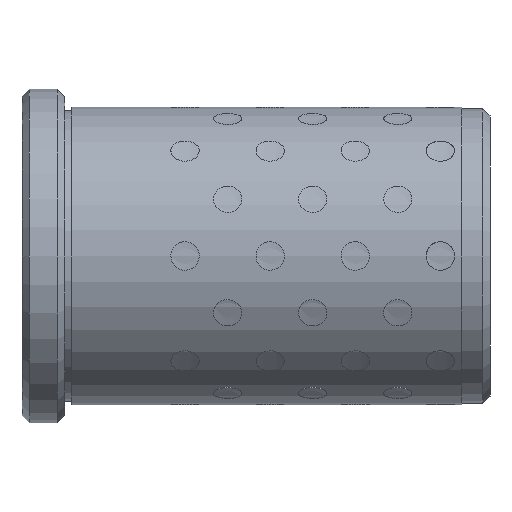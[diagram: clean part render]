
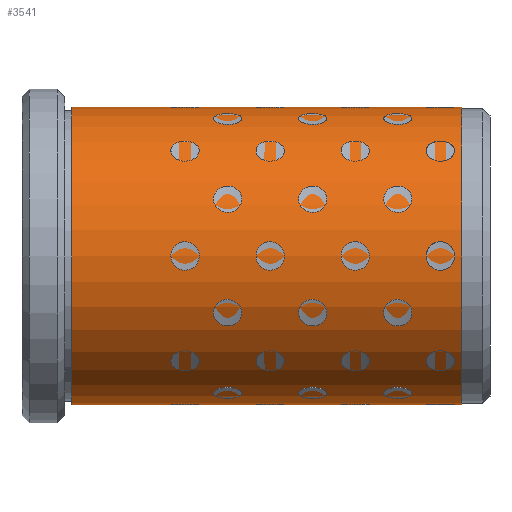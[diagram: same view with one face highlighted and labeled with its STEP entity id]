
A CAD part, left-side view. The second image highlights one B-rep face of the part: STEP entity #3541.
In plain terms, the highlighted cylindrical face has radius 21 mm (diameter 42 mm), a full revolution.
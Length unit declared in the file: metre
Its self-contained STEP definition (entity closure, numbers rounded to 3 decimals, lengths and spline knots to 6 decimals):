
#3541 = ADVANCED_FACE( '', ( #3790, #3791 ), #3792, .T. );
#3790 = FACE_OUTER_BOUND( '', #4339, .T. );
#3791 = FACE_OUTER_BOUND( '', #4340, .T. );
#3792 = CYLINDRICAL_SURFACE( '', #4341, 0.021 );
#4339 = EDGE_LOOP( '', ( #4904 ) );
#4340 = EDGE_LOOP( '', ( #4905 ) );
#4341 = AXIS2_PLACEMENT_3D( '', #4906, #4907, #4908 );
#4904 = ORIENTED_EDGE( '', *, *, #5884, .T. );
#4905 = ORIENTED_EDGE( '', *, *, #5883, .F. );
#4906 = CARTESIAN_POINT( '', ( 0., 0., 0. ) );
#4907 = DIRECTION( '', ( 0., 1., 0. ) );
#4908 = DIRECTION( '', ( 0., 0., -1. ) );
#5883 = EDGE_CURVE( '', #6050, #6050, #6051, .T. );
#5884 = EDGE_CURVE( '', #6052, #6052, #6053, .T. );
#6050 = VERTEX_POINT( '', #6368 );
#6051 = CIRCLE( '', #6369, 0.021 );
#6052 = VERTEX_POINT( '', #6370 );
#6053 = CIRCLE( '', #6371, 0.021 );
#6368 = CARTESIAN_POINT( '', ( 0., 0.004, -0.021 ) );
#6369 = AXIS2_PLACEMENT_3D( '', #14326, #14327, #14328 );
#6370 = CARTESIAN_POINT( '', ( 0., 0.059, -0.021 ) );
#6371 = AXIS2_PLACEMENT_3D( '', #14329, #14330, #14331 );
#14326 = CARTESIAN_POINT( '', ( 0., 0.004, 0. ) );
#14327 = DIRECTION( '', ( 0., -1., 0. ) );
#14328 = DIRECTION( '', ( 0., 0., -1. ) );
#14329 = CARTESIAN_POINT( '', ( 0., 0.059, 0. ) );
#14330 = DIRECTION( '', ( 0., -1., 0. ) );
#14331 = DIRECTION( '', ( 0., 0., -1. ) );
